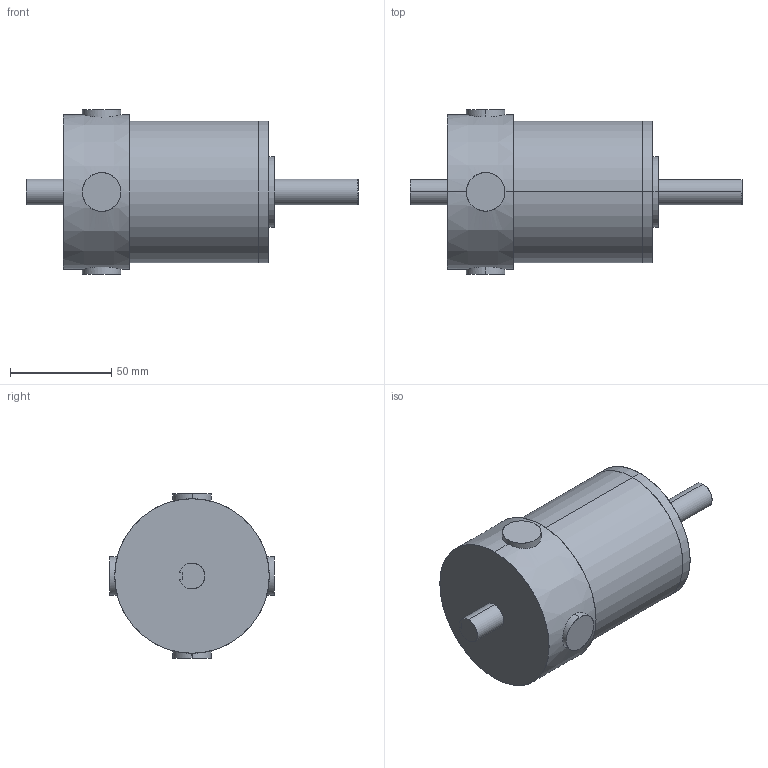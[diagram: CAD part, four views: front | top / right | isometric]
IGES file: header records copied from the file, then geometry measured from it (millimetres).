
Start section: SolidWorks IGES file using analytic representation for surfaces
Global section: file name: C:\Documents and Settings\Kevin Barker\My Documents\My Web Sites\Team Velocity\CADs\S28-150.IGS; native system: SolidWorks 2006 by SolidWorks Corporation; preprocessor: SolidWorks 2006 by SolidWorks Corporation; author: Kevin Barker; date: 080803.194837; units: inch
Bounding box: 163.83 x 81.28 x 81.28 mm (x, y, z)
Surface area: 43727.8 mm2 (no closed solid volume)
Topology: 0 solids, 0 shells, 60 faces, 1752 edges, 1752 vertices
Faces by surface type: revolution 38, bspline 22
